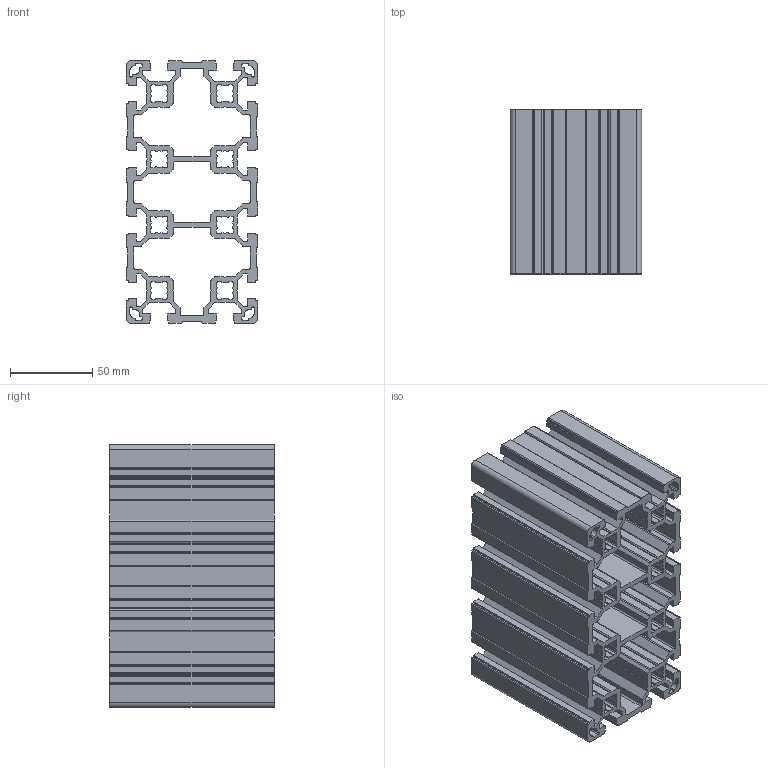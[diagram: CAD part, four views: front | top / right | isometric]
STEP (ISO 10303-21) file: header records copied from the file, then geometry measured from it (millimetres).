
FILE_DESCRIPTION( ( 'Unknown' ), '1' );
FILE_NAME( 'Z:/DBFINAL/Serie1/B-NEU-2018-11-19/B-NEU2019-Entwurf-FINAL/B10-40160L.stp', 'Unknown', ( 'Unknown' ), ( 'Unknown' ), 'XStep 1.0', 'Unknown', ' ' );
FILE_SCHEMA( ( 'automotive_design' ) );
Length unit declared in the file: millimetre
Products named in the file (1): 1
Bounding box: 80 x 100 x 160 mm (x, y, z)
Volume: 341758 mm3; surface area: 213666.6 mm2
Topology: 1 solids, 1 shells, 1018 faces, 3048 edges, 2032 vertices
Faces by surface type: plane 530, cylinder 488
Entity records: 42748 total; most frequent: CARTESIAN_POINT 6099, ORIENTED_EDGE 6096, DIRECTION 6062, EDGE_CURVE 3048, LINE 2072, VECTOR 2072, VERTEX_POINT 2032, AXIS2_PLACEMENT_3D 1995
